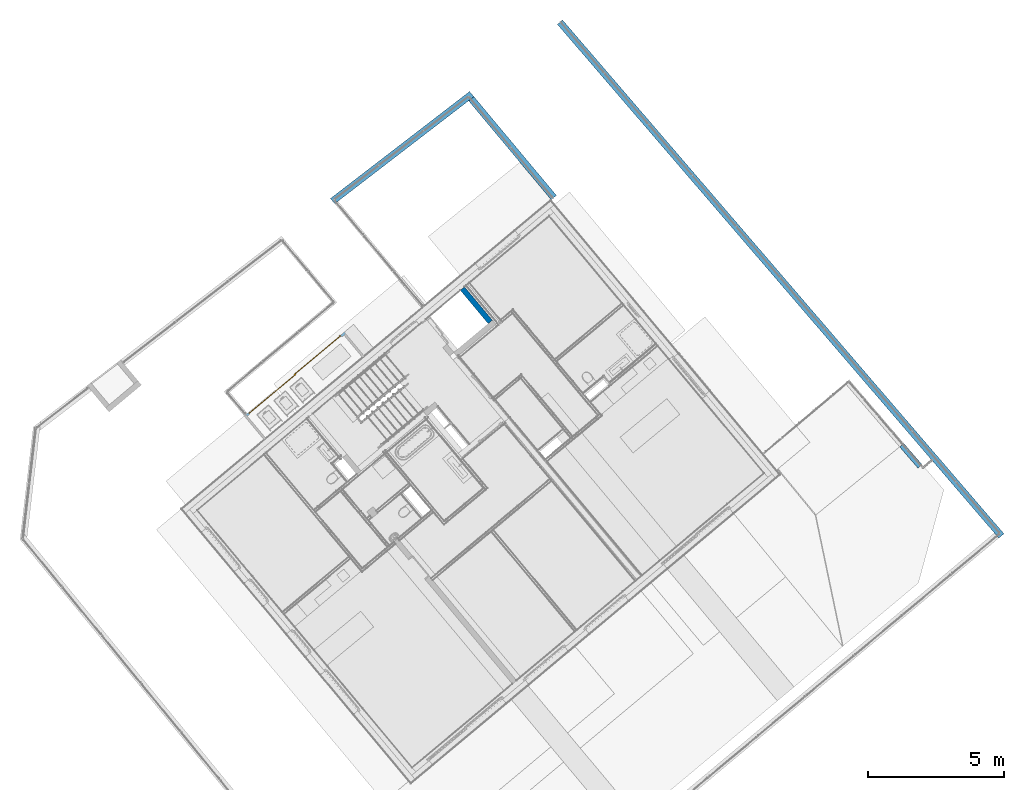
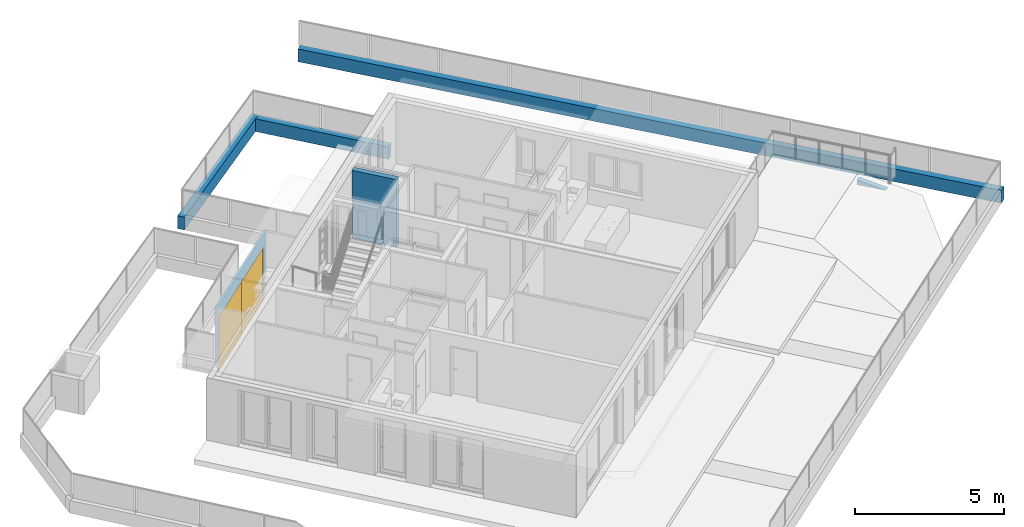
# One storey, part 8 of 67: 5 walls, 1 door, 1 opening, plus 1 element that does not belong to this part.
"""IFC4 building model written with IfcOpenShell, lengths in metres."""

from ifc_helpers import new_model, entity, si_unit, converted_unit, derived_unit, direction, frame, origin_with_axes, place, context, subcontext, project, spatial, polygons, material, type_object, element, fill, save


model = new_model("IFC4")

# Units and contexts
model_context = context("Model", 3, precision=1e-05, world=origin_with_axes(), true_north=direction((0.0, 1.0)))
body_context = subcontext(model_context, "Body", "Model", "MODEL_VIEW")
ifc_project = project(units=[si_unit("LENGTHUNIT", "METRE"), si_unit("AREAUNIT", "SQUARE_METRE"), si_unit("VOLUMEUNIT", "CUBIC_METRE"), converted_unit("PLANEANGLEUNIT", "DEGREE", entity("IfcPlaneAngleMeasure", 0.0174532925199), si_unit("PLANEANGLEUNIT", "RADIAN"), dimensions=[0, 0, 0, 0, 0, 0, 0]), converted_unit("TIMEUNIT", "Year", entity("IfcTimeMeasure", 31556926.0), si_unit("TIMEUNIT", "SECOND"), dimensions=[0, 0, 1, 0, 0, 0, 0]), si_unit("MASSUNIT", "GRAM", prefix="KILO"), si_unit("THERMODYNAMICTEMPERATUREUNIT", "DEGREE_CELSIUS"), si_unit("LUMINOUSINTENSITYUNIT", "LUMEN"), si_unit("ENERGYUNIT", "JOULE", prefix="MEGA"), derived_unit("THERMALCONDUCTANCEUNIT", [(si_unit("POWERUNIT", "WATT"), 1), (si_unit("LENGTHUNIT", "METRE"), -1), (si_unit("THERMODYNAMICTEMPERATUREUNIT", "KELVIN"), -1)]), derived_unit("SPECIFICHEATCAPACITYUNIT", [(si_unit("ENERGYUNIT", "JOULE"), 1), (si_unit("MASSUNIT", "GRAM", prefix="KILO"), -1), (si_unit("THERMODYNAMICTEMPERATUREUNIT", "KELVIN"), -1)]), derived_unit("MASSDENSITYUNIT", [(si_unit("MASSUNIT", "GRAM", prefix="KILO"), 1), (si_unit("VOLUMEUNIT", "CUBIC_METRE"), -1)])], contexts=[model_context])

# Site, building, storey
site_placement = place(None, frame((-0.00153261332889, -0.00661245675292, 0.0), z_axis=(0.0, 0.0, 1.0), x_axis=(1.0, 0.0, 0.0)))
site = spatial("IfcSite", under=ifc_project, at=site_placement, Name="Site", CompositionType="ELEMENT")
building_placement = place(site_placement, origin_with_axes())
building = spatial("IfcBuilding", under=site, at=building_placement, Name="Building", CompositionType="ELEMENT")
storey_placement = place(building_placement, frame((0.0, 0.0, -0.22), z_axis=(0.0, 0.0, 1.0), x_axis=(1.0, 0.0, 0.0)))
storey = spatial("IfcBuildingStorey", under=building, at=storey_placement, Name="EG", CompositionType="ELEMENT", Elevation=-0.22)

# Walls
ifc_material_1 = material(Name="Stahlbeton Wand")
wall_type_1 = type_object("IfcWallType", Name="Stahlbeton Wand 250", PredefinedType="NOTDEFINED")
wall_1_placement = place(storey_placement, frame((-3.18795489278, 30.4575473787, 0.0), z_axis=(0.0, 0.0, 1.0), x_axis=(0.792729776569, 0.609573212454, 0.0)))
element("IfcWall", 1, at=wall_1_placement, inside=storey, type_object=wall_type_1, material=ifc_material_1, Name="Wand-008", PredefinedType="NOTDEFINED", context=body_context, shape_type="Tessellation", body=[
    polygons([(6.48450034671, -0.25, 0.52), (6.47436977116, 0.0, 0.52), (0.0, 0.0, 0.52), (0.010105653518, -0.25, 0.52), (6.48450034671, -0.25, 0.0), (6.47436977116, 0.0, 0.0), (0.0, 0.0, 0.0), (0.010105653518, -0.25, 0.0)], [[[1, 2, 3, 4]], [[2, 1, 5, 6]], [[2, 6, 7, 3]], [[8, 4, 3, 7]], [[5, 1, 4, 8]], [[6, 5, 8, 7]]], closed=True),
])
wall_2_placement = place(storey_placement, frame((1.94447080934, 34.4041497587, 0.0), z_axis=(0.0, 0.0, 1.0), x_axis=(0.641170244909, -0.767398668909, 0.0)))
element("IfcWall", 2, at=wall_2_placement, inside=storey, type_object=wall_type_1, material=ifc_material_1, Name="Wand-009", PredefinedType="NOTDEFINED", context=body_context, shape_type="Tessellation", body=[
    polygons([(0.240074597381, -0.25, 0.52), (4.99207023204, -0.25, 0.52), (4.99207023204, 0.0, 0.52), (0.25020517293, 0.0, 0.52), (0.240074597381, -0.25, 0.0), (4.99207023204, -0.25, 0.0), (4.99207023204, 0.0, 0.0), (0.25020517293, 0.0, 0.0)], [[[1, 2, 3, 4]], [[5, 6, 2, 1]], [[3, 2, 6, 7]], [[4, 3, 7, 8]], [[5, 1, 4, 8]], [[8, 7, 6, 5]]], closed=True),
])
wall_3_placement = place(storey_placement, frame((5.37177482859, 37.0395909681, 0.0), z_axis=(0.0, 0.0, 1.0), x_axis=(0.6517064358, -0.758471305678, 0.0)))
element("IfcWall", 3, at=wall_3_placement, inside=storey, type_object=wall_type_1, material=ifc_material_1, Name="Wand-003", PredefinedType="NOTDEFINED", context=body_context, shape_type="Tessellation", body=[
    polygons([(24.9710105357, -0.25, 0.52), (24.974429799, 0.0, 0.52), (0.0, 0.0, 0.52), (0.0, -0.25, 0.52), (24.9710105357, -0.25, 0.0), (24.974429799, 0.0, 0.0), (0.0, 0.0, 0.0), (0.0, -0.25, 0.0)], [[[1, 2, 3, 4]], [[2, 1, 5, 6]], [[2, 6, 7, 3]], [[8, 4, 3, 7]], [[5, 1, 4, 8]], [[6, 5, 8, 7]]], closed=True),
])
wall_type_2 = type_object("IfcWallType", Name="Stahlbeton Wand 200", PredefinedType="NOTDEFINED")
wall_4_placement = place(storey_placement, frame((2.62932542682, 25.8435926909, 0.0), z_axis=(0.0, 0.0, 1.0), x_axis=(-0.641209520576, 0.767365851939, 0.0)))
element("IfcWall", 4, at=wall_4_placement, inside=storey, type_object=wall_type_2, material=ifc_material_1, Name="Wand-003", PredefinedType="NOTDEFINED", context=body_context, shape_type="Tessellation", body=[
    polygons([(1.60114424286, -0.2, 2.76), (1.60114424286, 0.0, 2.76), (0.0, 0.0, 2.76), (-1.0256685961e-05, -0.2, 2.76), (1.60114424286, -0.2, 0.0), (1.60114424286, 0.0, 0.0), (0.0, 0.0, 0.0), (-1.0256685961e-05, -0.2, 0.0)], [[[1, 2, 3, 4]], [[2, 1, 5, 6]], [[2, 6, 7, 3]], [[8, 4, 3, 7]], [[5, 1, 4, 8]], [[6, 5, 8, 7]]], closed=True),
])
wall_5_placement = place(storey_placement, frame((17.9558346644, 21.4265068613, 0.0), z_axis=(0.0, 0.0, 1.0), x_axis=(0.653009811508, -0.757349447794, 0.0)))
element("IfcWall", 5, at=wall_5_placement, inside=storey, type_object=wall_type_2, material=ifc_material_1, Name="Wand-006", PredefinedType="NOTDEFINED", context=body_context, shape_type="Tessellation", body=[
    polygons([(0.0, 0.0, 0.0), (4.84426951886e-08, -5.27641574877e-08, 0.19691467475), (1.03274082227, -2.84457541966e-08, -1.59269430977e-10), (-0.000348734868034, -0.2, 0.0), (-0.000348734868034, -0.2, 0.195820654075), (1.02665432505, -0.2, 0.0)], [[[1, 2, 3]], [[4, 5, 2, 1]], [[5, 6, 3, 2]], [[1, 3, 6, 4]], [[4, 6, 5]]], closed=True),
])

# Wall, opening, door
ifc_material_2 = material(Name="Aluminium")
wall_type_3 = type_object("IfcWallType", Name="Aluminium 80", PredefinedType="NOTDEFINED")
wall_6_placement = place(storey_placement, frame((-6.36726458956, 22.4448248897, 0.22), z_axis=(0.0, 0.0, 1.0), x_axis=(0.767365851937, 0.641209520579, 0.0)))
wall_6 = element("IfcWall", 6, at=wall_6_placement, inside=storey, type_object=wall_type_3, material=ifc_material_2, Name="Wand-008", PredefinedType="NOTDEFINED", context=body_context, shape_type="Tessellation", body=[
    polygons([(0.190017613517, -0.08, 0.0), (0.190017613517, -0.08, 2.04), (4.6310176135, -0.08, 2.04), (4.6310176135, -0.08, 0.0), (4.81101761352, -0.08, 0.0), (4.81101761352, -0.08, 2.54), (0.0800000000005, -0.08, 2.54), (0.0800000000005, -0.08, 0.0), (0.190017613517, 0.0, 0.0), (0.190017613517, 0.0, 2.04), (4.6310176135, 0.0, 2.04), (4.6310176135, 0.0, 0.0), (4.81101761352, 0.0, 0.0), (4.81101761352, 0.0, 2.54), (0.08, 0.0, 2.54), (0.08, 0.0, 0.3), (0.08, 0.0, 0.0)], [[[1, 2, 3, 4, 5, 6, 7, 8]], [[2, 1, 9, 10]], [[3, 2, 10, 11]], [[4, 3, 11, 12]], [[4, 12, 13, 5]], [[14, 6, 5, 13]], [[15, 7, 6, 14]], [[15, 16, 17, 8, 7]], [[9, 1, 8, 17]], [[10, 9, 17, 16, 15, 14, 13, 12, 11]]], closed=True),
])
opening_placement = place(wall_6_placement, frame((2.41051761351, 0.0, -0.22), z_axis=(0.0, 0.0, 1.0), x_axis=(1.0, 0.0, 0.0)))
opening = element("IfcOpeningElement", 7, at=opening_placement, cuts=wall_6, Name="Tür-001", context=body_context, identifier="Reference", shape_type="Tessellation", body=[
    polygons([(-2.22049999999, -2.44822412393, 2.26), (-2.22049999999, -2.44822412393, 0.0), (2.22049999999, -2.44822412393, 0.0), (2.22049999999, -2.44822412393, 2.26), (-2.22049999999, 2.36822412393, 2.26), (-2.22049999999, 2.36822412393, 0.0), (2.22049999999, 2.36822412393, 0.0), (2.22049999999, 2.36822412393, 2.26)], [[[1, 2, 3, 4]], [[5, 6, 2, 1]], [[6, 7, 3, 2]], [[7, 8, 4, 3]], [[8, 5, 1, 4]], [[7, 6, 5, 8]]], closed=True),
])
door_type = type_object("IfcDoorType", Name="Ladentür 1-Fl 26", OperationType="SINGLE_SWING_RIGHT", PredefinedType="NOTDEFINED")
door_placement = place(opening_placement, frame((2.22049999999, 0.0, 0.0), z_axis=(0.0, 0.0, 1.0), x_axis=(-1.0, 0.0, 0.0)))
door = element("IfcDoor", 8, at=door_placement, inside=storey, type_object=door_type, Name="Tür-001", OverallHeight=2.26, OverallWidth=4.441, PredefinedType="NOTDEFINED", context=body_context, shape_type="Tessellation", body=[
    polygons([(0.037, 0.045, 1.08598076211), (0.0360621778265, 0.04675, 1.08901185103), (0.0360621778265, 0.03, 1.0935), (0.037, 0.03, 1.09), (0.037, 0.0559807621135, 1.075), (0.0360621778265, 0.0590118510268, 1.07675), (0.0335, 0.0480310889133, 1.09123076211), (0.0335, 0.03, 1.09606217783), (0.03, 0.03, 1.097), (0.0265, 0.03, 1.09606217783), (0.0239378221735, 0.03, 1.0935), (0.023, 0.03, 1.09), (0.0239378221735, 0.03, 1.0865), (0.0265, 0.03, 1.08393782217), (0.03, 0.03, 1.083), (0.0335, 0.03, 1.08393782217), (0.0360621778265, 0.03, 1.0865), (0.0360621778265, 0.04325, 1.0829496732), (0.037, 0.06, 1.06), (0.0360621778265, 0.0635, 1.06), (0.0335, 0.0612307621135, 1.07803108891), (0.0360621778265, 0.0529496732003, 1.07325), (0.03, 0.0485, 1.09204293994), (0.0265, 0.0480310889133, 1.09123076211), (0.0239378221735, 0.04675, 1.08901185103), (0.023, 0.045, 1.08598076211), (0.0239378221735, 0.04325, 1.0829496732), (0.0265, 0.0419689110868, 1.08073076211), (0.03, 0.0415, 1.07991858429), (0.0335, 0.0419689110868, 1.08073076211), (0.0360621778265, 0.0565, 1.06), (0.0335, 0.0539378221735, 1.06), (0.03, 0.053, 1.06), (0.0265, 0.0539378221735, 1.06), (0.0239378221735, 0.0565, 1.06), (0.023, 0.06, 1.06), (0.0239378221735, 0.0635, 1.06), (0.0265, 0.0660621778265, 1.06), (0.03, 0.067, 1.06), (0.0335, 0.0660621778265, 1.06), (0.03, 0.06204293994, 1.0785), (0.0335, 0.0507307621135, 1.07196891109), (0.0265, 0.0612307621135, 1.07803108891), (0.0239378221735, 0.0590118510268, 1.07675), (0.023, 0.0559807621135, 1.075), (0.0239378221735, 0.0529496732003, 1.07325), (0.0265, 0.0507307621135, 1.07196891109), (0.03, 0.049918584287, 1.0715)], [[[1, 2, 3, 4]], [[5, 6, 2, 1]], [[2, 7, 8, 3]], [[4, 3, 8, 9, 10, 11, 12, 13, 14, 15, 16, 17]], [[18, 1, 4, 17]], [[19, 20, 6, 5]], [[6, 21, 7, 2]], [[22, 5, 1, 18]], [[7, 23, 9, 8]], [[23, 24, 10, 9]], [[24, 25, 11, 10]], [[25, 26, 12, 11]], [[26, 27, 13, 12]], [[27, 28, 14, 13]], [[28, 29, 15, 14]], [[29, 30, 16, 15]], [[30, 18, 17, 16]], [[19, 31, 32, 33, 34, 35, 36, 37, 38, 39, 40, 20]], [[20, 40, 21, 6]], [[31, 19, 5, 22]], [[21, 41, 23, 7]], [[42, 22, 18, 30]], [[41, 43, 24, 23]], [[43, 44, 25, 24]], [[44, 45, 26, 25]], [[45, 46, 27, 26]], [[46, 47, 28, 27]], [[47, 48, 29, 28]], [[48, 42, 30, 29]], [[32, 31, 22, 42]], [[33, 32, 42, 48]], [[34, 33, 48, 47]], [[35, 34, 47, 46]], [[36, 35, 46, 45]], [[37, 36, 45, 44]], [[38, 37, 44, 43]], [[39, 38, 43, 41]], [[40, 39, 41, 21]]], closed=True),
    polygons([(0.023, 0.045, 1.01401923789), (0.0239378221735, 0.04675, 1.01098814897), (0.0239378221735, 0.03, 1.0065), (0.023, 0.03, 1.01), (0.023, 0.0559807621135, 1.025), (0.0239378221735, 0.0590118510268, 1.02325), (0.0265, 0.0480310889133, 1.00876923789), (0.0265, 0.03, 1.00393782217), (0.03, 0.03, 1.003), (0.0335, 0.03, 1.00393782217), (0.0360621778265, 0.03, 1.0065), (0.037, 0.03, 1.01), (0.0360621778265, 0.03, 1.0135), (0.0335, 0.03, 1.01606217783), (0.03, 0.03, 1.017), (0.0265, 0.03, 1.01606217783), (0.0239378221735, 0.03, 1.0135), (0.0239378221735, 0.04325, 1.0170503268), (0.023, 0.06, 1.04), (0.0239378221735, 0.0635, 1.04), (0.0265, 0.0612307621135, 1.02196891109), (0.0239378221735, 0.0529496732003, 1.02675), (0.03, 0.0485, 1.00795706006), (0.0335, 0.0480310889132, 1.00876923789), (0.0360621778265, 0.04675, 1.01098814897), (0.037, 0.045, 1.01401923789), (0.0360621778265, 0.04325, 1.0170503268), (0.0335, 0.0419689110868, 1.01926923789), (0.03, 0.0415, 1.02008141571), (0.0265, 0.0419689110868, 1.01926923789), (0.0239378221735, 0.0565, 1.04), (0.0265, 0.0539378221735, 1.04), (0.03, 0.053, 1.04), (0.0335, 0.0539378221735, 1.04), (0.0360621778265, 0.0565, 1.04), (0.037, 0.06, 1.04), (0.0360621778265, 0.0635, 1.04), (0.0335, 0.0660621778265, 1.04), (0.03, 0.067, 1.04), (0.0265, 0.0660621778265, 1.04), (0.03, 0.06204293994, 1.0215), (0.0265, 0.0507307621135, 1.02803108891), (0.0335, 0.0612307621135, 1.02196891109), (0.0360621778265, 0.0590118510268, 1.02325), (0.037, 0.0559807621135, 1.025), (0.0360621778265, 0.0529496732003, 1.02675), (0.0335, 0.0507307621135, 1.02803108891), (0.03, 0.049918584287, 1.0285)], [[[1, 2, 3, 4]], [[5, 6, 2, 1]], [[2, 7, 8, 3]], [[4, 3, 8, 9, 10, 11, 12, 13, 14, 15, 16, 17]], [[18, 1, 4, 17]], [[19, 20, 6, 5]], [[6, 21, 7, 2]], [[22, 5, 1, 18]], [[7, 23, 9, 8]], [[23, 24, 10, 9]], [[24, 25, 11, 10]], [[25, 26, 12, 11]], [[26, 27, 13, 12]], [[27, 28, 14, 13]], [[28, 29, 15, 14]], [[29, 30, 16, 15]], [[30, 18, 17, 16]], [[19, 31, 32, 33, 34, 35, 36, 37, 38, 39, 40, 20]], [[20, 40, 21, 6]], [[31, 19, 5, 22]], [[21, 41, 23, 7]], [[42, 22, 18, 30]], [[41, 43, 24, 23]], [[43, 44, 25, 24]], [[44, 45, 26, 25]], [[45, 46, 27, 26]], [[46, 47, 28, 27]], [[47, 48, 29, 28]], [[48, 42, 30, 29]], [[32, 31, 22, 42]], [[33, 32, 42, 48]], [[34, 33, 48, 47]], [[35, 34, 47, 46]], [[36, 35, 46, 45]], [[37, 36, 45, 44]], [[38, 37, 44, 43]], [[39, 38, 43, 41]], [[40, 39, 41, 21]]], closed=True),
    polygons([(0.037, 0.06, 1.04), (0.037, 0.06, 1.06), (0.0360621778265, 0.0565, 1.06), (0.0360621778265, 0.0565, 1.04), (0.0360621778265, 0.0635, 1.04), (0.0360621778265, 0.0635, 1.06), (0.0335, 0.0660621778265, 1.06), (0.03, 0.067, 1.06), (0.0265, 0.0660621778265, 1.06), (0.0239378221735, 0.0635, 1.06), (0.023, 0.06, 1.06), (0.0239378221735, 0.0565, 1.06), (0.0265, 0.0539378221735, 1.06), (0.03, 0.053, 1.06), (0.0335, 0.0539378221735, 1.06), (0.0335, 0.0539378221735, 1.04), (0.03, 0.053, 1.04), (0.0265, 0.0539378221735, 1.04), (0.0239378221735, 0.0565, 1.04), (0.023, 0.06, 1.04), (0.0239378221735, 0.0635, 1.04), (0.0265, 0.0660621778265, 1.04), (0.03, 0.067, 1.04), (0.0335, 0.0660621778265, 1.04)], [[[1, 2, 3, 4]], [[5, 6, 2, 1]], [[2, 6, 7, 8, 9, 10, 11, 12, 13, 14, 15, 3]], [[4, 3, 15, 16]], [[1, 4, 16, 17, 18, 19, 20, 21, 22, 23, 24, 5]], [[24, 7, 6, 5]], [[23, 8, 7, 24]], [[22, 9, 8, 23]], [[21, 10, 9, 22]], [[20, 11, 10, 21]], [[19, 12, 11, 20]], [[18, 13, 12, 19]], [[17, 14, 13, 18]], [[16, 15, 14, 17]]], closed=True),
    polygons([(0.037, -0.015, 1.08598076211), (0.037, 0.0, 1.09), (0.0360621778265, 0.0, 1.0935), (0.0360621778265, -0.01675, 1.08901185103), (0.0360621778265, -0.01325, 1.0829496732), (0.0360621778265, 0.0, 1.0865), (0.0335, 0.0, 1.08393782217), (0.03, 0.0, 1.083), (0.0265, 0.0, 1.08393782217), (0.0239378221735, 0.0, 1.0865), (0.023, 0.0, 1.09), (0.0239378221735, 0.0, 1.0935), (0.0265, 0.0, 1.09606217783), (0.03, 0.0, 1.097), (0.0335, 0.0, 1.09606217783), (0.0335, -0.0180310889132, 1.09123076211), (0.037, -0.0259807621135, 1.075), (0.0360621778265, -0.0290118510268, 1.07675), (0.0335, -0.0119689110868, 1.08073076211), (0.0360621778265, -0.0229496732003, 1.07325), (0.03, -0.0115, 1.07991858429), (0.0265, -0.0119689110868, 1.08073076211), (0.0239378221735, -0.01325, 1.0829496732), (0.023, -0.015, 1.08598076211), (0.0239378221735, -0.01675, 1.08901185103), (0.0265, -0.0180310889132, 1.09123076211), (0.03, -0.0185, 1.09204293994), (0.0335, -0.0312307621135, 1.07803108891), (0.037, -0.03, 1.06), (0.0360621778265, -0.0335, 1.06), (0.0335, -0.0207307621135, 1.07196891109), (0.0360621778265, -0.0265, 1.06), (0.03, -0.019918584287, 1.0715), (0.0265, -0.0207307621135, 1.07196891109), (0.0239378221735, -0.0229496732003, 1.07325), (0.023, -0.0259807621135, 1.075), (0.0239378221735, -0.0290118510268, 1.07675), (0.0265, -0.0312307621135, 1.07803108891), (0.03, -0.03204293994, 1.0785), (0.0335, -0.0360621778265, 1.06), (0.03, -0.037, 1.06), (0.0265, -0.0360621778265, 1.06), (0.0239378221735, -0.0335, 1.06), (0.023, -0.03, 1.06), (0.0239378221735, -0.0265, 1.06), (0.0265, -0.0239378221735, 1.06), (0.03, -0.023, 1.06), (0.0335, -0.0239378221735, 1.06)], [[[1, 2, 3, 4]], [[5, 6, 2, 1]], [[2, 6, 7, 8, 9, 10, 11, 12, 13, 14, 15, 3]], [[4, 3, 15, 16]], [[17, 1, 4, 18]], [[19, 7, 6, 5]], [[20, 5, 1, 17]], [[21, 8, 7, 19]], [[22, 9, 8, 21]], [[23, 10, 9, 22]], [[24, 11, 10, 23]], [[25, 12, 11, 24]], [[26, 13, 12, 25]], [[27, 14, 13, 26]], [[16, 15, 14, 27]], [[18, 4, 16, 28]], [[29, 17, 18, 30]], [[31, 19, 5, 20]], [[32, 20, 17, 29]], [[33, 21, 19, 31]], [[34, 22, 21, 33]], [[35, 23, 22, 34]], [[36, 24, 23, 35]], [[37, 25, 24, 36]], [[38, 26, 25, 37]], [[39, 27, 26, 38]], [[28, 16, 27, 39]], [[30, 18, 28, 40]], [[29, 30, 40, 41, 42, 43, 44, 45, 46, 47, 48, 32]], [[48, 31, 20, 32]], [[47, 33, 31, 48]], [[46, 34, 33, 47]], [[45, 35, 34, 46]], [[44, 36, 35, 45]], [[43, 37, 36, 44]], [[42, 38, 37, 43]], [[41, 39, 38, 42]], [[40, 28, 39, 41]]], closed=True),
    polygons([(0.023, -0.015, 1.01401923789), (0.023, 0.0, 1.01), (0.0239378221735, 0.0, 1.0065), (0.0239378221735, -0.01675, 1.01098814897), (0.0239378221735, -0.01325, 1.0170503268), (0.0239378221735, 0.0, 1.0135), (0.0265, 0.0, 1.01606217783), (0.03, 0.0, 1.017), (0.0335, 0.0, 1.01606217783), (0.0360621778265, 0.0, 1.0135), (0.037, 0.0, 1.01), (0.0360621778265, 0.0, 1.0065), (0.0335, 0.0, 1.00393782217), (0.03, 0.0, 1.003), (0.0265, 0.0, 1.00393782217), (0.0265, -0.0180310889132, 1.00876923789), (0.023, -0.0259807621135, 1.025), (0.0239378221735, -0.0290118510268, 1.02325), (0.0265, -0.0119689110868, 1.01926923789), (0.0239378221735, -0.0229496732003, 1.02675), (0.03, -0.0115, 1.02008141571), (0.0335, -0.0119689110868, 1.01926923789), (0.0360621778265, -0.01325, 1.0170503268), (0.037, -0.015, 1.01401923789), (0.0360621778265, -0.01675, 1.01098814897), (0.0335, -0.0180310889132, 1.00876923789), (0.03, -0.0185, 1.00795706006), (0.0265, -0.0312307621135, 1.02196891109), (0.023, -0.03, 1.04), (0.0239378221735, -0.0335, 1.04), (0.0265, -0.0207307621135, 1.02803108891), (0.0239378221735, -0.0265, 1.04), (0.03, -0.019918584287, 1.0285), (0.0335, -0.0207307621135, 1.02803108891), (0.0360621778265, -0.0229496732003, 1.02675), (0.037, -0.0259807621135, 1.025), (0.0360621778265, -0.0290118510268, 1.02325), (0.0335, -0.0312307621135, 1.02196891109), (0.03, -0.03204293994, 1.0215), (0.0265, -0.0360621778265, 1.04), (0.03, -0.037, 1.04), (0.0335, -0.0360621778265, 1.04), (0.0360621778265, -0.0335, 1.04), (0.037, -0.03, 1.04), (0.0360621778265, -0.0265, 1.04), (0.0335, -0.0239378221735, 1.04), (0.03, -0.023, 1.04), (0.0265, -0.0239378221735, 1.04)], [[[1, 2, 3, 4]], [[5, 6, 2, 1]], [[2, 6, 7, 8, 9, 10, 11, 12, 13, 14, 15, 3]], [[4, 3, 15, 16]], [[17, 1, 4, 18]], [[19, 7, 6, 5]], [[20, 5, 1, 17]], [[21, 8, 7, 19]], [[22, 9, 8, 21]], [[23, 10, 9, 22]], [[24, 11, 10, 23]], [[25, 12, 11, 24]], [[26, 13, 12, 25]], [[27, 14, 13, 26]], [[16, 15, 14, 27]], [[18, 4, 16, 28]], [[29, 17, 18, 30]], [[31, 19, 5, 20]], [[32, 20, 17, 29]], [[33, 21, 19, 31]], [[34, 22, 21, 33]], [[35, 23, 22, 34]], [[36, 24, 23, 35]], [[37, 25, 24, 36]], [[38, 26, 25, 37]], [[39, 27, 26, 38]], [[28, 16, 27, 39]], [[30, 18, 28, 40]], [[29, 30, 40, 41, 42, 43, 44, 45, 46, 47, 48, 32]], [[48, 31, 20, 32]], [[47, 33, 31, 48]], [[46, 34, 33, 47]], [[45, 35, 34, 46]], [[44, 36, 35, 45]], [[43, 37, 36, 44]], [[42, 38, 37, 43]], [[41, 39, 38, 42]], [[40, 28, 39, 41]]], closed=True),
    polygons([(0.037, -0.03, 1.04), (0.0360621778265, -0.0265, 1.04), (0.0360621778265, -0.0265, 1.06), (0.037, -0.03, 1.06), (0.0360621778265, -0.0335, 1.04), (0.0335, -0.0360621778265, 1.04), (0.03, -0.037, 1.04), (0.0265, -0.0360621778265, 1.04), (0.0239378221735, -0.0335, 1.04), (0.023, -0.03, 1.04), (0.0239378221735, -0.0265, 1.04), (0.0265, -0.0239378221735, 1.04), (0.03, -0.023, 1.04), (0.0335, -0.0239378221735, 1.04), (0.0335, -0.0239378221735, 1.06), (0.03, -0.023, 1.06), (0.0265, -0.0239378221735, 1.06), (0.0239378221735, -0.0265, 1.06), (0.023, -0.03, 1.06), (0.0239378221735, -0.0335, 1.06), (0.0265, -0.0360621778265, 1.06), (0.03, -0.037, 1.06), (0.0335, -0.0360621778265, 1.06), (0.0360621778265, -0.0335, 1.06)], [[[1, 2, 3, 4]], [[1, 5, 6, 7, 8, 9, 10, 11, 12, 13, 14, 2]], [[2, 14, 15, 3]], [[4, 3, 15, 16, 17, 18, 19, 20, 21, 22, 23, 24]], [[5, 1, 4, 24]], [[6, 5, 24, 23]], [[7, 6, 23, 22]], [[8, 7, 22, 21]], [[9, 8, 21, 20]], [[10, 9, 20, 19]], [[11, 10, 19, 18]], [[12, 11, 18, 17]], [[13, 12, 17, 16]], [[14, 13, 16, 15]]], closed=True),
    polygons([(0.0, 0.03, 0.0), (2.24549999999, 0.03, 0.0), (2.24549999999, 0.0, 0.0), (0.0, 0.0, 0.0), (0.0, 0.03, 2.26), (2.24549999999, 0.03, 2.26), (0.05, 0.03, 0.25), (2.19549999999, 0.03, 0.25), (2.19549999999, 0.03, 2.21), (0.05, 0.03, 2.21), (2.24549999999, 0.0, 2.26), (0.0, 0.0, 2.26), (0.05, 0.0, 0.25), (0.05, 0.0, 2.21), (2.19549999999, 0.0, 2.21), (2.19549999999, 0.0, 0.25)], [[[1, 2, 3, 4]], [[1, 5, 6, 2], [7, 8, 9, 10]], [[2, 6, 11, 3]], [[4, 3, 11, 12], [13, 14, 15, 16]], [[5, 1, 4, 12]], [[6, 5, 12, 11]], [[8, 7, 13, 16]], [[9, 8, 16, 15]], [[10, 9, 15, 14]], [[7, 10, 14, 13]]], closed=True),
    polygons([(0.05, 0.02, 0.25), (2.19549999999, 0.02, 0.25), (2.19549999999, 0.01, 0.25), (0.05, 0.01, 0.25), (0.05, 0.02, 2.21), (2.19549999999, 0.02, 2.21), (2.19549999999, 0.01, 2.21), (0.05, 0.01, 2.21)], [[[1, 2, 3, 4]], [[1, 5, 6, 2]], [[2, 6, 7, 3]], [[4, 3, 7, 8]], [[5, 1, 4, 8]], [[6, 5, 8, 7]]], closed=True),
    polygons([(2.19549999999, 0.06, 0.0), (4.44099999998, 0.06, 0.0), (4.44099999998, 0.03, 0.0), (2.19549999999, 0.03, 0.0), (2.19549999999, 0.06, 2.26), (4.44099999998, 0.06, 2.26), (2.24549999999, 0.06, 0.25), (4.39099999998, 0.06, 0.25), (4.39099999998, 0.06, 2.21), (2.24549999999, 0.06, 2.21), (4.44099999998, 0.03, 2.26), (2.19549999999, 0.03, 2.26), (2.24549999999, 0.03, 0.25), (2.24549999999, 0.03, 2.21), (4.39099999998, 0.03, 2.21), (4.39099999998, 0.03, 0.25)], [[[1, 2, 3, 4]], [[1, 5, 6, 2], [7, 8, 9, 10]], [[2, 6, 11, 3]], [[4, 3, 11, 12], [13, 14, 15, 16]], [[5, 1, 4, 12]], [[6, 5, 12, 11]], [[8, 7, 13, 16]], [[9, 8, 16, 15]], [[10, 9, 15, 14]], [[7, 10, 14, 13]]], closed=True),
    polygons([(2.24549999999, 0.05, 0.25), (4.39099999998, 0.05, 0.25), (4.39099999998, 0.04, 0.25), (2.24549999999, 0.04, 0.25), (2.24549999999, 0.05, 2.21), (4.39099999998, 0.05, 2.21), (4.39099999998, 0.04, 2.21), (2.24549999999, 0.04, 2.21)], [[[1, 2, 3, 4]], [[1, 5, 6, 2]], [[2, 6, 7, 3]], [[4, 3, 7, 8]], [[5, 1, 4, 8]], [[6, 5, 8, 7]]], closed=True),
])
fill(opening, door)

save(model, "model.ifc")
